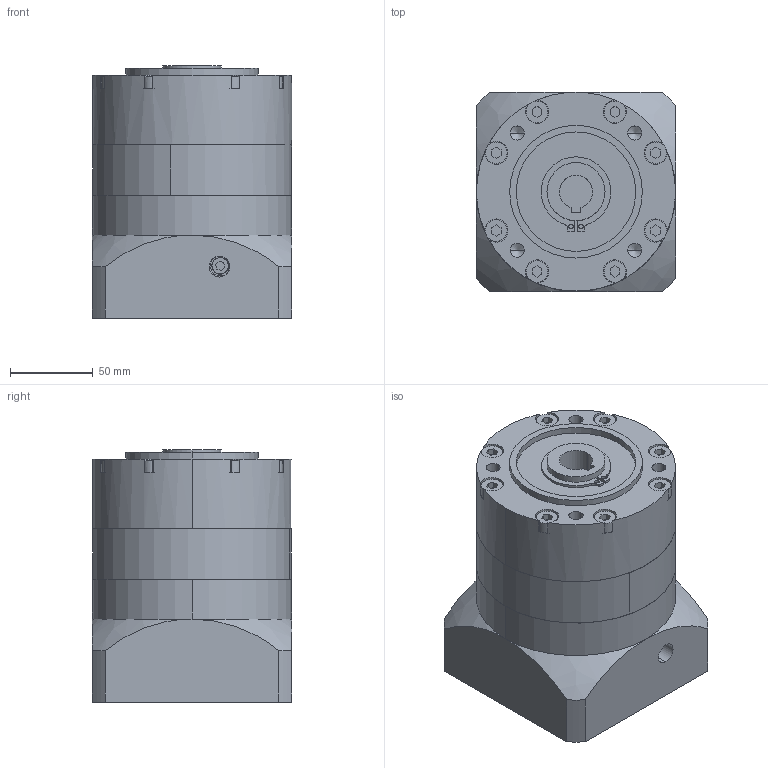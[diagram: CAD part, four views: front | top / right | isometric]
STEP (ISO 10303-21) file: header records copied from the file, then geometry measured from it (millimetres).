
FILE_DESCRIPTION (( 'STEP AP203' ), '1' );
FILE_NAME ('PBE120-L1.STEP', '2022-07-23T09:19:00', ( 'Windows User' ), ( 'P R C' ), 'SwSTEP 2.0', 'SolidWorks 2016', '' );
FILE_SCHEMA (( 'CONFIG_CONTROL_DESIGN' ));
Length unit declared in the file: millimetre
Products named in the file (7): PBE120-L1; PBE120 奻屳唳; 囀鞠褒蹟佪 M6x20; PBE120 蟀諉啣-準梓-芞醱; PBE120 κｳﾝﾈｦ-ﾓﾅｻｯ_ﾒｻｼｶﾄﾚｳﾝﾈｦ; PBE120 狟屳唳; 粣創-6007 40x68x15
Assembly tree (6 placements, depth 2):
  PBE120-L1
    PBE120 奻屳唳
    囀鞠褒蹟佪 M6x20
    PBE120 蟀諉啣-準梓-芞醱
    PBE120 κｳﾝﾈｦ-ﾓﾅｻｯ_ﾒｻｼｶﾄﾚｳﾝﾈｦ
    PBE120 狟屳唳
    粣創-6007 40x68x15
Bounding box: 120 x 120 x 152 mm (x, y, z)
Volume: 1555475.5 mm3; surface area: 224708.2 mm2
Topology: 6 solids, 14 shells, 993 faces, 2676 edges, 1754 vertices
Faces by surface type: plane 538, bspline 247, cylinder 190, cone 18
Entity records: 40188 total; most frequent: CARTESIAN_POINT 16101, ORIENTED_EDGE 5288, DIRECTION 4210, EDGE_CURVE 2644, VERTEX_POINT 1746, AXIS2_PLACEMENT_3D 1442, LINE 1326, VECTOR 1326
